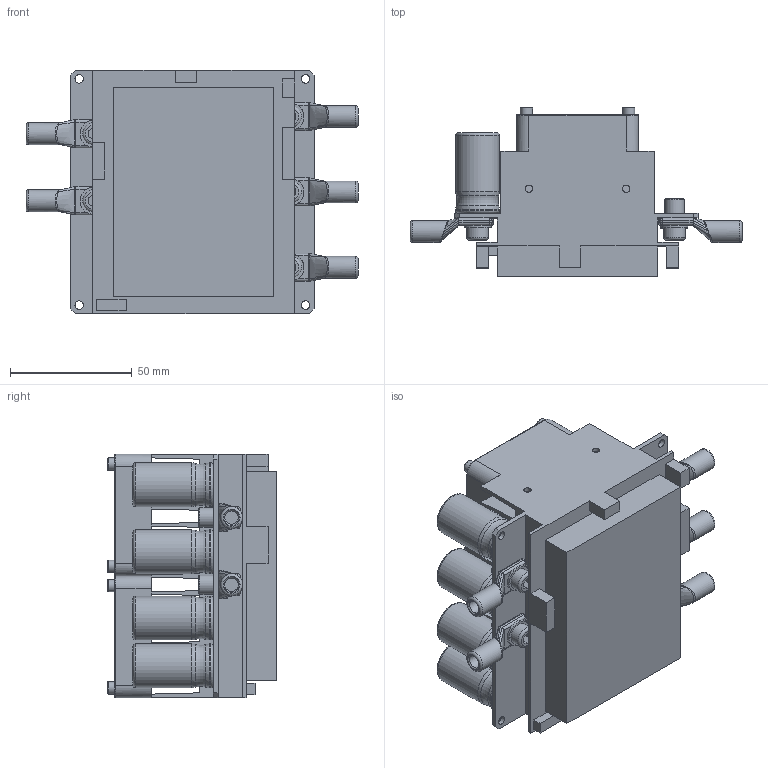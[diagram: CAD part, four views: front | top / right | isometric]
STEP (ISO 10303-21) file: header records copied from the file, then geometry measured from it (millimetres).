
FILE_DESCRIPTION(/* description */ (''),/* implementation_level */ '2;1');
FILE_NAME(/* name */ 'C:\Users\JUS\Desktop\MGMcompro\HBC random\HBC TMM18063.stp',/* time_stamp */ '2016-02-29T20:46:08+01:00',/* author */ ('JUS'),/* organization */ (''),/* preprocessor_version */ 'ST-DEVELOPER v15.6',/* originating_system */ 'Autodesk Inventor 2015',/* authorisation */ '');
FILE_SCHEMA (('AUTOMOTIVE_DESIGN { 1 0 10303 214 3 1 1 }'));
Products named in the file (1): nový krám
Bounding box: 136.42 x 69.5 x 100 mm (x, y, z)
Volume: 309381 mm3; surface area: 109422.6 mm2
Topology: 1 solids, 1 shells, 1010 faces, 2688 edges, 1626 vertices
Faces by surface type: plane 457, bspline 261, cylinder 190, torus 69, sphere 20, cone 13
Full cylindrical faces by diameter (mm): 3 x4, 3.5 x4, 5 x8, 5.5 x5, 8 x5, 9 x10, 11 x4, 11.1 x5, 18 x8, 22 x2, 48 x2
Entity records: 41976 total; most frequent: CARTESIAN_POINT 18956, ORIENTED_EDGE 5098, DIRECTION 4118, EDGE_CURVE 2541, VERTEX_POINT 1602, AXIS2_PLACEMENT_3D 1422, LINE 1274, VECTOR 1274
